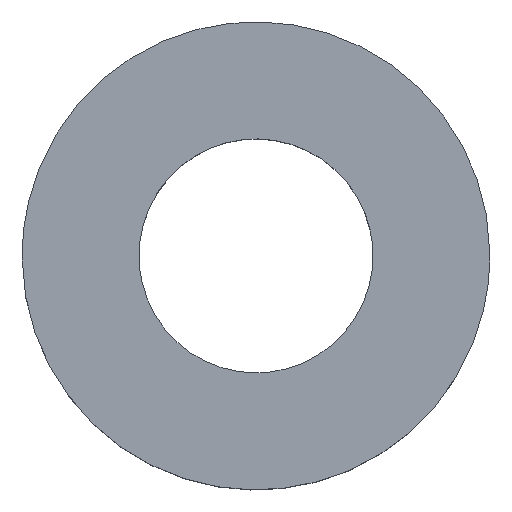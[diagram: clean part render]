
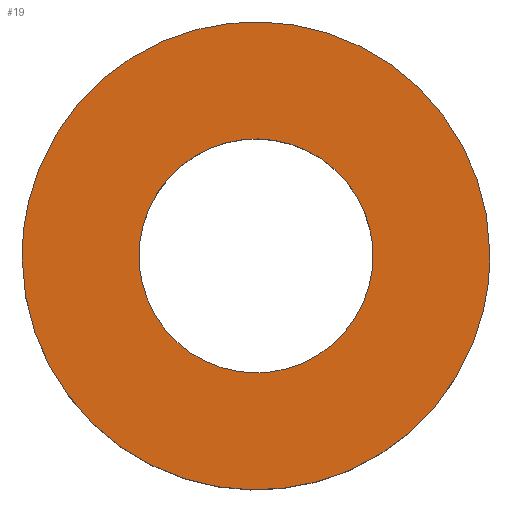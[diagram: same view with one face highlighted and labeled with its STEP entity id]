
A CAD part, top view. The second image highlights one B-rep face of the part: STEP entity #19.
In plain terms, the highlighted planar face has unit normal (0, 0, 1).
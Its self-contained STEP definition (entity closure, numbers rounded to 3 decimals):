
#16=FACE_BOUND('',#33,.T.);
#19=ADVANCED_FACE('',(#25,#16),#94,.T.);
#25=FACE_OUTER_BOUND('',#32,.T.);
#32=EDGE_LOOP('',(#45,#46));
#33=EDGE_LOOP('',(#47,#48));
#45=ORIENTED_EDGE('',*,*,#63,.T.);
#46=ORIENTED_EDGE('',*,*,#69,.T.);
#47=ORIENTED_EDGE('',*,*,#65,.T.);
#48=ORIENTED_EDGE('',*,*,#72,.T.);
#63=EDGE_CURVE('',#86,#90,#75,.T.);
#65=EDGE_CURVE('',#88,#91,#77,.T.);
#69=EDGE_CURVE('',#90,#86,#81,.T.);
#72=EDGE_CURVE('',#91,#88,#84,.T.);
#75=(
BOUNDED_CURVE()
B_SPLINE_CURVE(2,(#186,#187,#188,#189,#190),.UNSPECIFIED.,.F.,.F.)
B_SPLINE_CURVE_WITH_KNOTS((3,2,3),(0.,31.416,62.832),
 .UNSPECIFIED.)
CURVE()
GEOMETRIC_REPRESENTATION_ITEM()
RATIONAL_B_SPLINE_CURVE((1.,0.707,1.,0.707,1.))
REPRESENTATION_ITEM('')
);
#77=(
BOUNDED_CURVE()
B_SPLINE_CURVE(2,(#196,#197,#198,#199,#200),.UNSPECIFIED.,.F.,.F.)
B_SPLINE_CURVE_WITH_KNOTS((3,2,3),(-62.832,-47.124,
-31.416),.UNSPECIFIED.)
CURVE()
GEOMETRIC_REPRESENTATION_ITEM()
RATIONAL_B_SPLINE_CURVE((1.,0.707,1.,0.707,1.))
REPRESENTATION_ITEM('')
);
#81=(
BOUNDED_CURVE()
B_SPLINE_CURVE(2,(#210,#211,#212,#213,#214),.UNSPECIFIED.,.F.,.F.)
B_SPLINE_CURVE_WITH_KNOTS((3,2,3),(62.832,94.248,125.664),
 .UNSPECIFIED.)
CURVE()
GEOMETRIC_REPRESENTATION_ITEM()
RATIONAL_B_SPLINE_CURVE((1.,0.707,1.,0.707,1.))
REPRESENTATION_ITEM('')
);
#84=(
BOUNDED_CURVE()
B_SPLINE_CURVE(2,(#222,#223,#224,#225,#226),.UNSPECIFIED.,.F.,.F.)
B_SPLINE_CURVE_WITH_KNOTS((3,2,3),(-31.416,-15.708,0.),
 .UNSPECIFIED.)
CURVE()
GEOMETRIC_REPRESENTATION_ITEM()
RATIONAL_B_SPLINE_CURVE((1.,0.707,1.,0.707,1.))
REPRESENTATION_ITEM('')
);
#86=VERTEX_POINT('',#172);
#88=VERTEX_POINT('',#174);
#90=VERTEX_POINT('',#176);
#91=VERTEX_POINT('',#177);
#94=PLANE('',#120);
#120=AXIS2_PLACEMENT_3D('',#140,#125,$);
#125=DIRECTION('',(0.,0.,1.));
#140=CARTESIAN_POINT('',(-25.,-25.,-20.));
#172=CARTESIAN_POINT('',(20.,0.,-20.));
#174=CARTESIAN_POINT('',(10.,0.,-20.));
#176=CARTESIAN_POINT('',(-20.,0.,-20.));
#177=CARTESIAN_POINT('',(-10.,0.,-20.));
#186=CARTESIAN_POINT('',(20.,0.,-20.));
#187=CARTESIAN_POINT('',(20.,20.,-20.));
#188=CARTESIAN_POINT('',(0.,20.,-20.));
#189=CARTESIAN_POINT('',(-20.,20.,-20.));
#190=CARTESIAN_POINT('',(-20.,0.,-20.));
#196=CARTESIAN_POINT('',(10.,0.,-20.));
#197=CARTESIAN_POINT('',(10.,-10.,-20.));
#198=CARTESIAN_POINT('',(0.,-10.,-20.));
#199=CARTESIAN_POINT('',(-10.,-10.,-20.));
#200=CARTESIAN_POINT('',(-10.,0.,-20.));
#210=CARTESIAN_POINT('',(-20.,0.,-20.));
#211=CARTESIAN_POINT('',(-20.,-20.,-20.));
#212=CARTESIAN_POINT('',(0.,-20.,-20.));
#213=CARTESIAN_POINT('',(20.,-20.,-20.));
#214=CARTESIAN_POINT('',(20.,0.,-20.));
#222=CARTESIAN_POINT('',(-10.,0.,-20.));
#223=CARTESIAN_POINT('',(-10.,10.,-20.));
#224=CARTESIAN_POINT('',(0.,10.,-20.));
#225=CARTESIAN_POINT('',(10.,10.,-20.));
#226=CARTESIAN_POINT('',(10.,0.,-20.));
